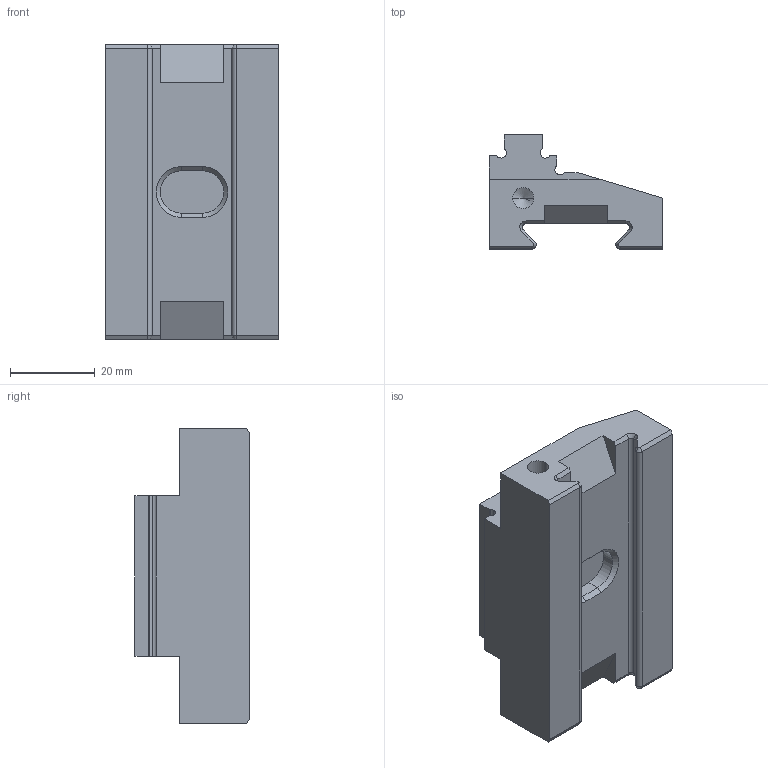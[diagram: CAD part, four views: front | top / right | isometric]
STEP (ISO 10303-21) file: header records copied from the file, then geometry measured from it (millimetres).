
FILE_DESCRIPTION (( 'STEP AP214' ), '1' );
FILE_NAME ('6921544020031.STEP', '2017-12-21T13:12:43', ( '' ), ( '' ), 'SwSTEP 2.0', 'SolidWorks 2016', '' );
FILE_SCHEMA (( 'AUTOMOTIVE_DESIGN' ));
Length unit declared in the file: millimetre
Products named in the file (1): 6921544020031
Bounding box: 41 x 27 x 70 mm (x, y, z)
Volume: 39291.8 mm3; surface area: 11899.6 mm2
Topology: 1 solids, 1 shells, 249 faces, 652 edges, 424 vertices
Faces by surface type: plane 135, bspline 79, cone 18, cylinder 17
Entity records: 12580 total; most frequent: CARTESIAN_POINT 6897, ORIENTED_EDGE 1296, DIRECTION 882, EDGE_CURVE 648, VECTOR 440, LINE 440, VERTEX_POINT 424, EDGE_LOOP 272
